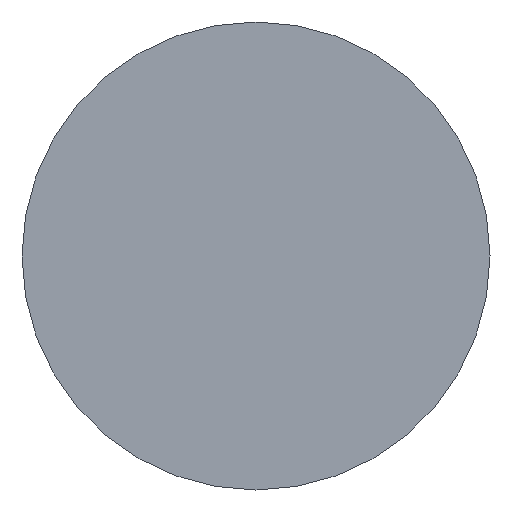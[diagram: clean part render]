
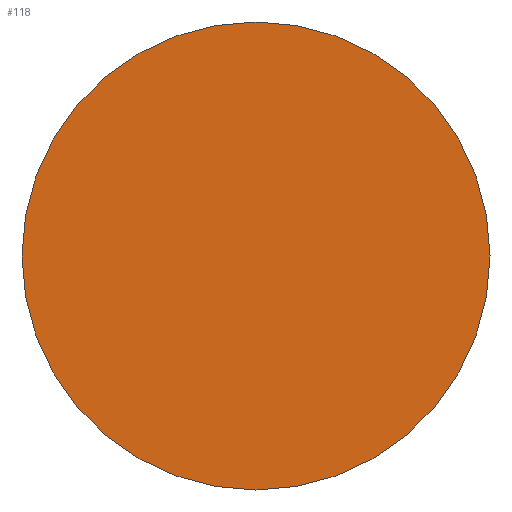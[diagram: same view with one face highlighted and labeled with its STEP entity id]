
A CAD part, front view. The second image highlights one B-rep face of the part: STEP entity #118.
In plain terms, the highlighted planar face has unit normal (0, -1, 0).
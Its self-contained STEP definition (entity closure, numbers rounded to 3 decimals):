
#90 = VERTEX_POINT( '', #183 );
#92 = EDGE_CURVE( '', #90, #108, #185, .T. );
#106 = EDGE_CURVE( '', #108, #90, #200, .T. );
#108 = VERTEX_POINT( '', #202 );
#118 = ADVANCED_FACE( '', ( #213 ), #214, .T. );
#183 = CARTESIAN_POINT( '', ( 0., -23., 8. ) );
#185 = CIRCLE( '', #282, 8. );
#200 = CIRCLE( '', #300, 8. );
#202 = CARTESIAN_POINT( '', ( 0., -23., -8. ) );
#213 = FACE_OUTER_BOUND( '', #318, .T. );
#214 = PLANE( '', #319 );
#282 = AXIS2_PLACEMENT_3D( '', #385, #386, #387 );
#300 = AXIS2_PLACEMENT_3D( '', #400, #401, #402 );
#318 = EDGE_LOOP( '', ( #417, #418 ) );
#319 = AXIS2_PLACEMENT_3D( '', #419, #420, #421 );
#385 = CARTESIAN_POINT( '', ( 0., -23., 0. ) );
#386 = DIRECTION( '', ( 0., 1., 0. ) );
#387 = DIRECTION( '', ( 0., 0., -1. ) );
#400 = CARTESIAN_POINT( '', ( 0., -23., 0. ) );
#401 = DIRECTION( '', ( 0., 1., 0. ) );
#402 = DIRECTION( '', ( 0., 0., -1. ) );
#417 = ORIENTED_EDGE( '', *, *, #106, .F. );
#418 = ORIENTED_EDGE( '', *, *, #92, .F. );
#419 = CARTESIAN_POINT( '', ( 0., -23., -4. ) );
#420 = DIRECTION( '', ( 0., -1., 0. ) );
#421 = DIRECTION( '', ( 0., 0., 1. ) );
